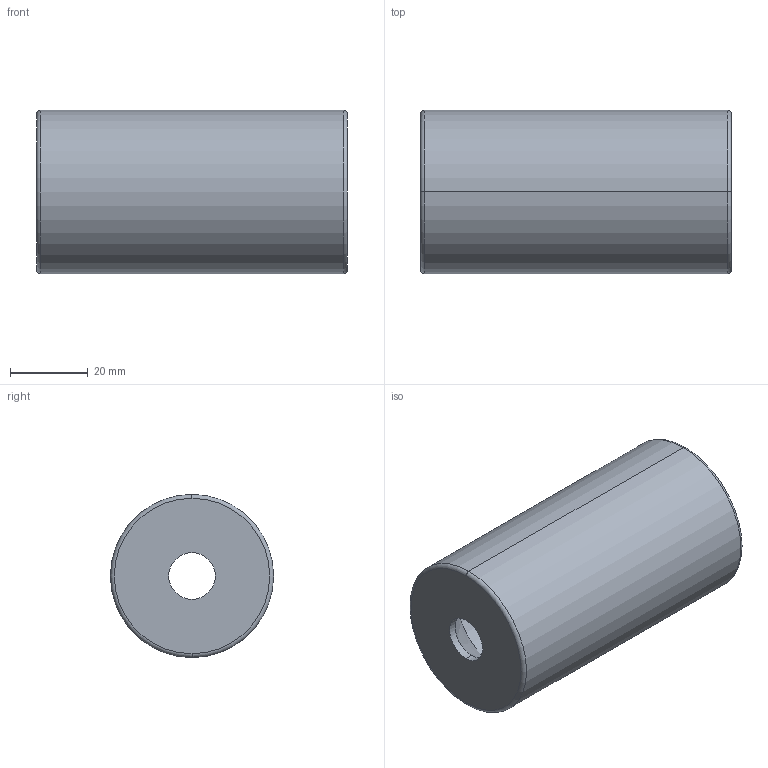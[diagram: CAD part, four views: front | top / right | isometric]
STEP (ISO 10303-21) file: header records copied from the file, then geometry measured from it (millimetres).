
FILE_DESCRIPTION (( 'STEP AP214' ), '1' );
FILE_NAME ('BR20 42x080.STEP', '2020-01-21T11:34:16', ( 'August' ), ( '' ), 'SwSTEP 2.0', 'SolidWorks 2018', '' );
FILE_SCHEMA (( 'AUTOMOTIVE_DESIGN' ));
Length unit declared in the file: millimetre
Products named in the file (1): BR20 42x080
Bounding box: 80 x 42 x 42 mm (x, y, z)
Volume: 44803.8 mm3; surface area: 20547.5 mm2
Topology: 1 solids, 1 shells, 14 faces, 28 edges, 16 vertices
Faces by surface type: cylinder 6, torus 4, cone 2, plane 2
Entity records: 406 total; most frequent: DIRECTION 78, CARTESIAN_POINT 59, ORIENTED_EDGE 56, AXIS2_PLACEMENT_3D 35, EDGE_CURVE 28, CIRCLE 20, EDGE_LOOP 16, VERTEX_POINT 16
